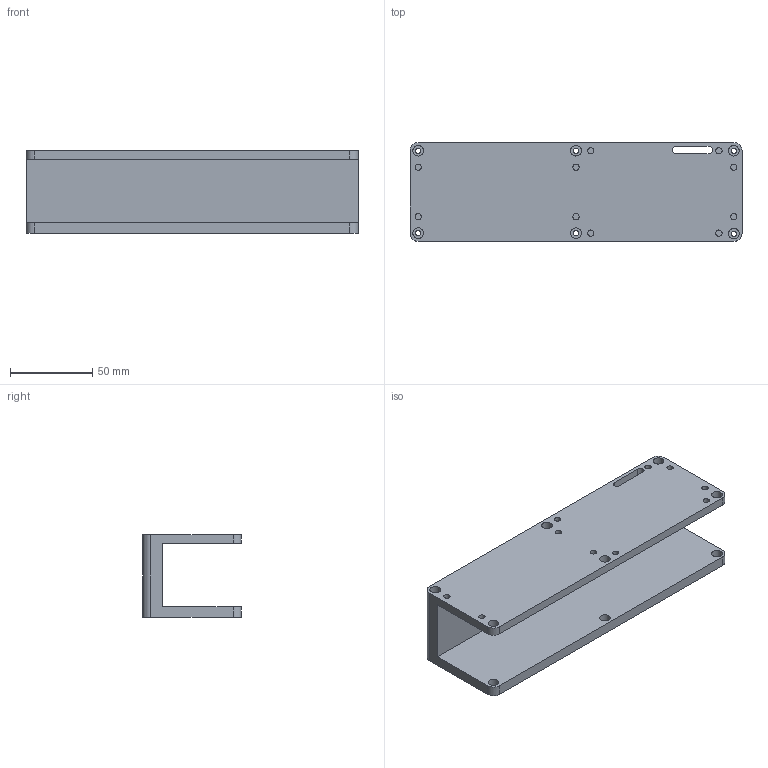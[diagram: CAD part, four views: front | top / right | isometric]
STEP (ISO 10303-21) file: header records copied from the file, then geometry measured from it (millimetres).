
FILE_DESCRIPTION(/* description */ (''),/* implementation_level */ '2;1');
FILE_NAME(/* name */ 'C:\Users\Karol\Documents\Inventor\gniazdo_desktop\C-Clamp_Bracket_35mm.stp',/* time_stamp */ '2026-03-16T23:15:22+01:00',/* author */ ('Karol'),/* organization */ (''),/* preprocessor_version */ 'ST-DEVELOPER v16.1',/* originating_system */ 'Autodesk Inventor 2016',/* authorisation */ '');
FILE_SCHEMA (('AUTOMOTIVE_DESIGN { 1 0 10303 214 3 1 1 }'));
Length unit declared in the file: millimetre
Products named in the file (1): blat_holder35mm
Bounding box: 201.44 x 60 x 50.3 mm (x, y, z)
Volume: 223135.3 mm3; surface area: 72202.9 mm2
Topology: 1 solids, 1 shells, 53 faces, 131 edges, 90 vertices
Faces by surface type: cylinder 33, plane 20
Full cylindrical faces by diameter (mm): 3.2 x6, 3.8 x10, 6.5 x9
Entity records: 1584 total; most frequent: DIRECTION 280, CARTESIAN_POINT 250, ORIENTED_EDGE 208, EDGE_LOOP 122, AXIS2_PLACEMENT_3D 120, EDGE_CURVE 104, VERTEX_POINT 86, FACE_BOUND 69
